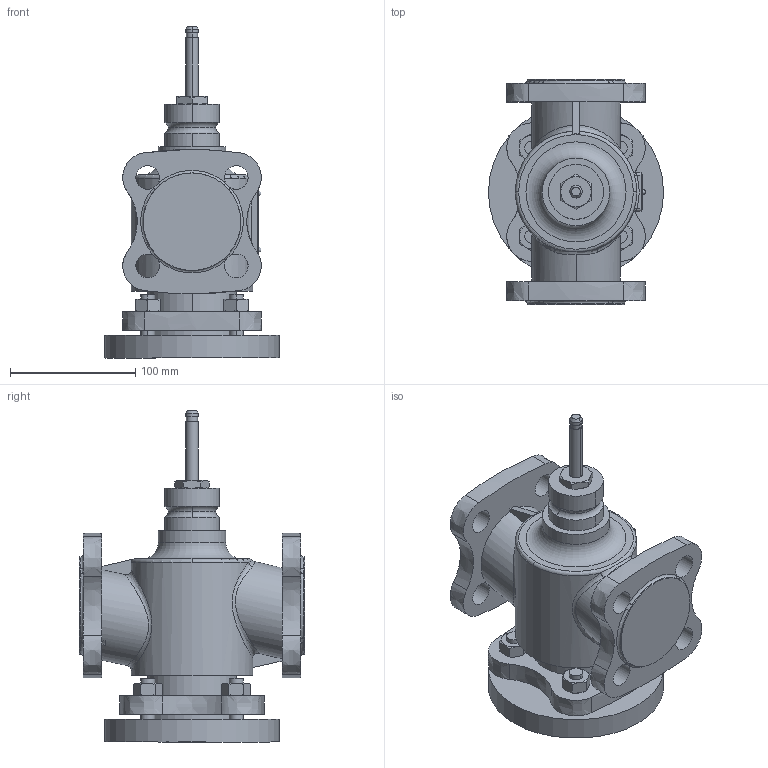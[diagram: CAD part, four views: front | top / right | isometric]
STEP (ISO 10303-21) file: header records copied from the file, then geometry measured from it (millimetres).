
FILE_DESCRIPTION(/* description */ ('Step214'),/* implementation_level */ '2;1');
FILE_NAME(/* name */ 'VVF53 DN32.stp',/* time_stamp */ '2015-11-10T14:08:49+01:00',/* author */ (''),/* organization */ ('Siemens'),/* preprocessor_version */ 'ST-DEVELOPER v15',/* originating_system */ 'SIEMENS PLM Software NX 8.5',/* authorisation */ 'for Duktil only');
FILE_SCHEMA (('AUTOMOTIVE_DESIGN { 1 0 10303 214 3 1 1 1 }'));
Length unit declared in the file: millimetre
Products named in the file (1): Volc19F47525lfi6
Bounding box: 140 x 180 x 265.5 mm (x, y, z)
Volume: 1898595.5 mm3; surface area: 176164 mm2
Topology: 1 solids, 1 shells, 220 faces, 573 edges, 371 vertices
Faces by surface type: plane 78, cylinder 61, extrusion 24, cone 22, torus 17, bspline 16, sphere 2
Full cylindrical faces by diameter (mm): 19 x12, 54 x1, 78 x3, 140 x1
Entity records: 9729 total; most frequent: CARTESIAN_POINT 4760, ORIENTED_EDGE 1070, DIRECTION 946, EDGE_CURVE 535, AXIS2_PLACEMENT_3D 382, VERTEX_POINT 355, EDGE_LOOP 282, ADVANCED_FACE 220
